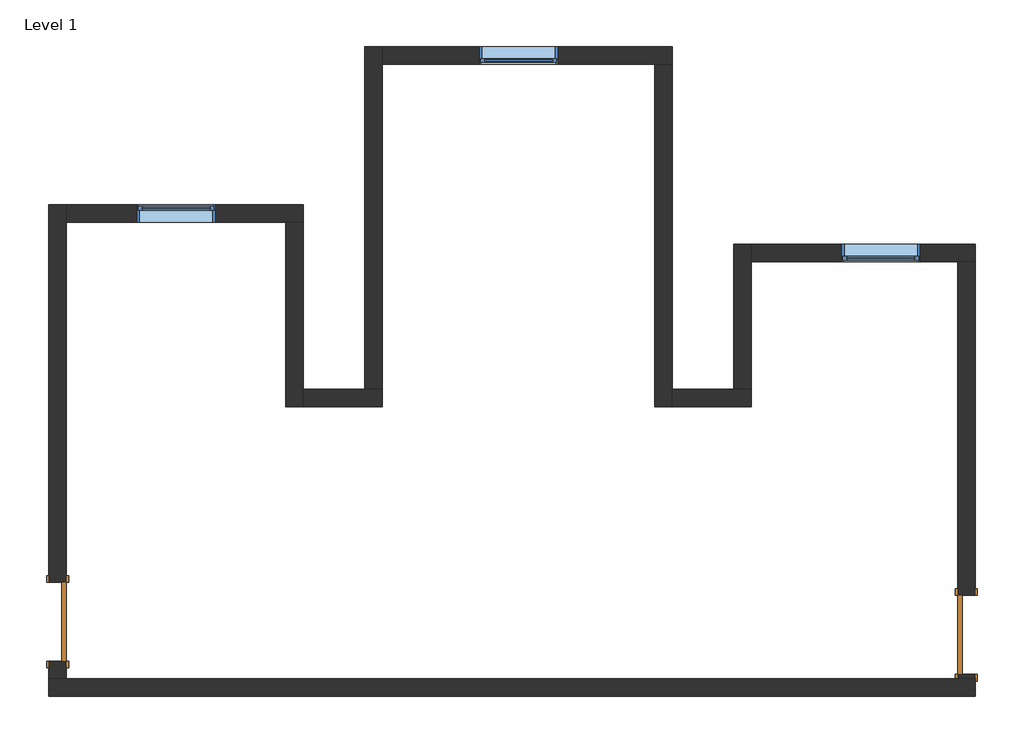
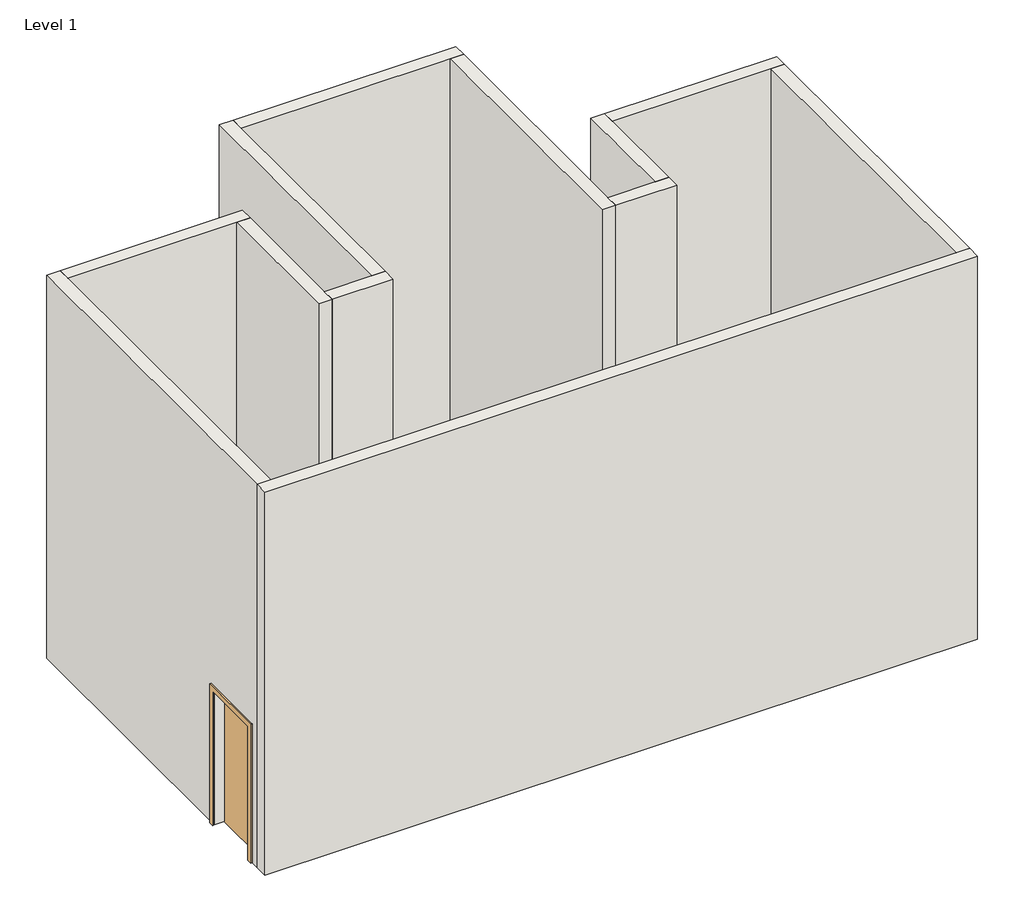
# One storey: 12 walls, 3 windows, 2 doors.
"""IFC4 building model written with IfcOpenShell, lengths in millimetres."""

from ifc_helpers import new_model, si_unit, frame, origin, place, context, project, spatial, polyline, outline, extrude, faceted_brep, transform, mapped, element, save
from components import door_54dd4da4, door_719f80de, window_e2841890

model = new_model("IFC4")

# Units and contexts
model_context = context("Model", 3, world=origin())
ifc_project = project(units=[si_unit("LENGTHUNIT", "METRE", prefix="MILLI")], contexts=[model_context])

# Site, building, storey
site = spatial("IfcSite", under=ifc_project)
building = spatial("IfcBuilding", under=site)
storey = spatial("IfcBuildingStorey", under=building, Name="Level 1", Elevation=0.0)

# Doors
placement = place(None, origin())
door_shape = door_54dd4da4(model_context)
element("IfcDoor", 1, ObjectType="Single-Flush : 36\" x 84\"", at=placement, inside=storey, context=model_context, shape_type="MappedRepresentation", body=[
    mapped(door_shape, transform((-6677.4307585, -3835.4773964, 0.0), x_axis=(0.0, -1.0, 0.0), y_axis=(1.0, 0.0, 0.0), z_axis=(0.0, 0.0, 1.0))),
])
door_2_shape = door_719f80de(model_context)
element("IfcDoor", 2, ObjectType="Single-Flush : 36\" x 84\"", at=placement, inside=storey, context=model_context, shape_type="MappedRepresentation", body=[
    mapped(door_2_shape, transform((3838.1692415, -3987.8773964, 0.0), x_axis=(0.0, -1.0, 0.0), y_axis=(1.0, 0.0, 0.0), z_axis=(0.0, 0.0, 1.0))),
])

# Walls
element("IfcWall", 3, ObjectType="Generic - 8\"", at=placement, inside=storey, context=model_context, shape_type="Brep", body=[
    faceted_brep([(3939.7692415, -4495.8773964, 0.0), (3736.5692415, -4495.8773964, 0.0), (-6575.8307585, -4495.8773964, 0.0), (-6779.0307585, -4495.8773964, 0.0), (-6779.0307585, -4495.8773964, 6096.0), (-6575.8307585, -4495.8773964, 6096.0), (3736.5692415, -4495.8773964, 6096.0), (3939.7692415, -4495.8773964, 6096.0), (3939.7692415, -4699.0773964, 0.0), (3939.7692415, -4699.0773964, 6096.0), (-6779.0307585, -4699.0773964, 6096.0), (-6779.0307585, -4699.0773964, 0.0)], [[[0, 1, 2, 3, 4, 5, 6, 7]], [[8, 9, 10, 11]], [[3, 2, 1, 0, 8, 11]], [[7, 6, 5, 4, 10, 9]], [[4, 3, 11, 10]], [[0, 7, 9, 8]]]),
])
element("IfcWall", 4, ObjectType="Generic - 8\"", at=placement, inside=storey, context=model_context, shape_type="Brep", body=[
    faceted_brep([(-6575.8307585, -4495.8773964, 0.0), (-6575.8307585, -4292.6773964, 0.0), (-6575.8307585, -4292.6773964, 2133.6), (-6575.8307585, -3378.2773964, 2133.6), (-6575.8307585, -3378.2773964, 0.0), (-6575.8307585, 787.3226036, 0.0), (-6575.8307585, 990.5226036, 0.0), (-6575.8307585, 990.5226036, 6096.0), (-6575.8307585, 787.3226036, 6096.0), (-6575.8307585, -4495.8773964, 6096.0), (-6779.0307585, -4292.6773964, 2133.6), (-6779.0307585, -4292.6773964, 0.0), (-6779.0307585, -4495.8773964, 0.0), (-6779.0307585, -4495.8773964, 6096.0), (-6779.0307585, 990.5226036, 6096.0), (-6779.0307585, 990.5226036, 0.0), (-6779.0307585, -3378.2773964, 0.0), (-6779.0307585, -3378.2773964, 2133.6)], [[[0, 1, 2, 3, 4, 5, 6, 7, 8, 9]], [[10, 11, 12, 13, 14, 15, 16, 17]], [[16, 15, 6, 5, 4]], [[12, 11, 1, 0]], [[9, 8, 7, 14, 13]], [[0, 9, 13, 12]], [[7, 6, 15, 14]], [[2, 1, 11, 10]], [[3, 2, 10, 17]], [[4, 3, 17, 16]]]),
])
element("IfcWall", 5, ObjectType="Generic - 8\"", at=placement, inside=storey, context=model_context, shape_type="Brep", body=[
    faceted_brep([(-6575.8307585, 787.3226036, 0.0), (-4035.8307585, 787.3226036, 0.0), (-3832.6307585, 787.3226036, 0.0), (-3832.6307585, 787.3226036, 6096.0), (-4035.8307585, 787.3226036, 6096.0), (-6575.8307585, 787.3226036, 6096.0), (-4848.6307585, 787.3226036, 2133.6), (-4848.6307585, 787.3226036, 914.4), (-5763.0307585, 787.3226036, 914.4), (-5763.0307585, 787.3226036, 2133.6), (-6575.8307585, 990.5226036, 0.0), (-6575.8307585, 990.5226036, 6096.0), (-3832.6307585, 990.5226036, 6096.0), (-3832.6307585, 990.5226036, 0.0), (-4848.6307585, 990.5226036, 2133.6), (-5763.0307585, 990.5226036, 2133.6), (-5763.0307585, 990.5226036, 914.4), (-4848.6307585, 990.5226036, 914.4)], [[[0, 1, 2, 3, 4, 5], [6, 7, 8, 9]], [[10, 11, 12, 13], [14, 15, 16, 17]], [[2, 1, 0, 10, 13]], [[5, 4, 3, 12, 11]], [[0, 5, 11, 10]], [[3, 2, 13, 12]], [[7, 6, 14, 17]], [[8, 7, 17, 16]], [[9, 8, 16, 15]], [[6, 9, 15, 14]]]),
])
element("IfcWall", 6, ObjectType="Generic - 8\"", at=placement, inside=storey, context=model_context, shape_type="Brep", body=[
    faceted_brep([(-4035.8307585, 787.3226036, 0.0), (-4035.8307585, -1346.2773964, 0.0), (-4035.8307585, -1346.2773964, 6096.0), (-4035.8307585, 787.3226036, 6096.0), (-3832.6307585, 787.3226036, 0.0), (-3832.6307585, 787.3226036, 6096.0), (-3832.6307585, -1143.0773964, 6096.0), (-3832.6307585, -1346.2773964, 6096.0), (-3832.6307585, -1346.2773964, 0.0), (-3832.6307585, -1143.0773964, 0.0)], [[[0, 1, 2, 3]], [[4, 5, 6, 7, 8, 9]], [[1, 0, 4, 9, 8]], [[3, 2, 7, 6, 5]], [[0, 3, 5, 4]], [[2, 1, 8, 7]]]),
])
element("IfcWall", 7, ObjectType="Generic - 8\"", at=placement, inside=storey, context=model_context, shape_type="Brep", body=[
    faceted_brep([(-3832.6307585, -1346.2773964, 0.0), (-2918.2307585, -1346.2773964, 0.0), (-2918.2307585, -1346.2773964, 6096.0), (-3832.6307585, -1346.2773964, 6096.0), (-3832.6307585, -1143.0773964, 0.0), (-3832.6307585, -1143.0773964, 6096.0), (-3121.4307585, -1143.0773964, 6096.0), (-2918.2307585, -1143.0773964, 6096.0), (-2918.2307585, -1143.0773964, 0.0), (-3121.4307585, -1143.0773964, 0.0)], [[[0, 1, 2, 3]], [[4, 5, 6, 7, 8, 9]], [[1, 0, 4, 9, 8]], [[3, 2, 7, 6, 5]], [[0, 3, 5, 4]], [[2, 1, 8, 7]]]),
])
element("IfcWall", 8, ObjectType="Generic - 8\"", at=placement, inside=storey, context=model_context, shape_type="Brep", body=[
    faceted_brep([(-2918.2307585, -1143.0773964, 0.0), (-2918.2307585, 2616.1226036, 0.0), (-2918.2307585, 2819.3226036, 0.0), (-2918.2307585, 2819.3226036, 6096.0), (-2918.2307585, 2616.1226036, 6096.0), (-2918.2307585, -1143.0773964, 6096.0), (-3121.4307585, -1143.0773964, 0.0), (-3121.4307585, -1143.0773964, 6096.0), (-3121.4307585, 2819.3226036, 6096.0), (-3121.4307585, 2819.3226036, 0.0)], [[[0, 1, 2, 3, 4, 5]], [[6, 7, 8, 9]], [[2, 1, 0, 6, 9]], [[5, 4, 3, 8, 7]], [[0, 5, 7, 6]], [[3, 2, 9, 8]]]),
])
element("IfcWall", 9, ObjectType="Generic - 8\"", at=placement, inside=storey, context=model_context, shape_type="Brep", body=[
    faceted_brep([(-2918.2307585, 2616.1226036, 0.0), (231.3692415, 2616.1226036, 0.0), (434.5692415, 2616.1226036, 0.0), (434.5692415, 2616.1226036, 6096.0), (231.3692415, 2616.1226036, 6096.0), (-2918.2307585, 2616.1226036, 6096.0), (-1800.6307585, 2616.1226036, 2133.6), (-886.2307585, 2616.1226036, 2133.6), (-886.2307585, 2616.1226036, 914.4), (-1800.6307585, 2616.1226036, 914.4), (-2918.2307585, 2819.3226036, 0.0), (-2918.2307585, 2819.3226036, 6096.0), (434.5692415, 2819.3226036, 6096.0), (434.5692415, 2819.3226036, 0.0), (-1800.6307585, 2819.3226036, 2133.6), (-1800.6307585, 2819.3226036, 914.4), (-886.2307585, 2819.3226036, 914.4), (-886.2307585, 2819.3226036, 2133.6)], [[[0, 1, 2, 3, 4, 5], [6, 7, 8, 9]], [[10, 11, 12, 13], [14, 15, 16, 17]], [[2, 1, 0, 10, 13]], [[5, 4, 3, 12, 11]], [[0, 5, 11, 10]], [[3, 2, 13, 12]], [[15, 14, 6, 9]], [[16, 15, 9, 8]], [[17, 16, 8, 7]], [[14, 17, 7, 6]]]),
])
element("IfcWall", 10, ObjectType="Generic - 8\"", at=placement, inside=storey, context=model_context, shape_type="Brep", body=[
    faceted_brep([(231.3692415, 2616.1226036, 0.0), (231.3692415, -1346.2773964, 0.0), (231.3692415, -1346.2773964, 6096.0), (231.3692415, 2616.1226036, 6096.0), (434.5692415, 2616.1226036, 0.0), (434.5692415, 2616.1226036, 6096.0), (434.5692415, -1143.0773964, 6096.0), (434.5692415, -1346.2773964, 6096.0), (434.5692415, -1346.2773964, 0.0), (434.5692415, -1143.0773964, 0.0)], [[[0, 1, 2, 3]], [[4, 5, 6, 7, 8, 9]], [[1, 0, 4, 9, 8]], [[3, 2, 7, 6, 5]], [[0, 3, 5, 4]], [[2, 1, 8, 7]]]),
])
element("IfcWall", 11, ObjectType="Generic - 8\"", at=placement, inside=storey, context=model_context, shape_type="Brep", body=[
    faceted_brep([(434.5692415, -1346.2773964, 0.0), (1348.9692415, -1346.2773964, 0.0), (1348.9692415, -1346.2773964, 6096.0), (434.5692415, -1346.2773964, 6096.0), (434.5692415, -1143.0773964, 0.0), (434.5692415, -1143.0773964, 6096.0), (1145.7692415, -1143.0773964, 6096.0), (1348.9692415, -1143.0773964, 6096.0), (1348.9692415, -1143.0773964, 0.0), (1145.7692415, -1143.0773964, 0.0)], [[[0, 1, 2, 3]], [[4, 5, 6, 7, 8, 9]], [[1, 0, 4, 9, 8]], [[3, 2, 7, 6, 5]], [[0, 3, 5, 4]], [[2, 1, 8, 7]]]),
])
element("IfcWall", 12, ObjectType="Generic - 8\"", at=placement, inside=storey, context=model_context, shape_type="Brep", body=[
    faceted_brep([(1348.9692415, -1143.0773964, 0.0), (1348.9692415, 330.1226036, 0.0), (1348.9692415, 533.3226036, 0.0), (1348.9692415, 533.3226036, 6096.0), (1348.9692415, 330.1226036, 6096.0), (1348.9692415, -1143.0773964, 6096.0), (1145.7692415, -1143.0773964, 0.0), (1145.7692415, -1143.0773964, 6096.0), (1145.7692415, 533.3226036, 6096.0), (1145.7692415, 533.3226036, 0.0)], [[[0, 1, 2, 3, 4, 5]], [[6, 7, 8, 9]], [[2, 1, 0, 6, 9]], [[5, 4, 3, 8, 7]], [[0, 5, 7, 6]], [[3, 2, 9, 8]]]),
])
element("IfcWall", 13, ObjectType="Generic - 8\"", at=placement, inside=storey, context=model_context, shape_type="Brep", body=[
    faceted_brep([(1348.9692415, 330.1226036, 0.0), (3736.5692415, 330.1226036, 0.0), (3939.7692415, 330.1226036, 0.0), (3939.7692415, 330.1226036, 6096.0), (3736.5692415, 330.1226036, 6096.0), (1348.9692415, 330.1226036, 6096.0), (2390.3692415, 330.1226036, 2133.6), (3304.7692415, 330.1226036, 2133.6), (3304.7692415, 330.1226036, 914.4), (2390.3692415, 330.1226036, 914.4), (1348.9692415, 533.3226036, 0.0), (1348.9692415, 533.3226036, 6096.0), (3939.7692415, 533.3226036, 6096.0), (3939.7692415, 533.3226036, 0.0), (2390.3692415, 533.3226036, 2133.6), (2390.3692415, 533.3226036, 914.4), (3304.7692415, 533.3226036, 914.4), (3304.7692415, 533.3226036, 2133.6)], [[[0, 1, 2, 3, 4, 5], [6, 7, 8, 9]], [[10, 11, 12, 13], [14, 15, 16, 17]], [[2, 1, 0, 10, 13]], [[5, 4, 3, 12, 11]], [[0, 5, 11, 10]], [[3, 2, 13, 12]], [[15, 14, 6, 9]], [[16, 15, 9, 8]], [[17, 16, 8, 7]], [[14, 17, 7, 6]]]),
])
element("IfcWall", 14, ObjectType="Generic - 8\"", at=placement, inside=storey, context=model_context, shape_type="SweptSolid", body=[
    extrude(outline(polyline([(-4445.0773964, 2133.6), (-4445.0773964, 0.0), (-4495.8773964, 0.0), (-4495.8773964, 6096.0), (330.1226036, 6096.0), (330.1226036, 0.0), (-3530.6773964, 0.0), (-3530.6773964, 2133.6), (-4445.0773964, 2133.6)])), frame((3736.5692415, 0.0, 0.0), z_axis=(1.0, 0.0, 0.0), x_axis=(0.0, 1.0, 0.0)), (0.0, 0.0, 1.0), 203.2),
])

# Windows
window_shape = window_e2841890(model_context)
element("IfcWindow", 15, ObjectType="Fixed : 36\" x 48\"", at=placement, inside=storey, context=model_context, shape_type="MappedRepresentation", body=[
    mapped(window_shape, transform((-1381.5307585, 2717.7226036, 0.0), x_axis=(-1.0, 0.0, 0.0), y_axis=(0.0, -1.0, 0.0), z_axis=(0.0, 0.0, 1.0))),
])
element("IfcWindow", 16, ObjectType="Fixed : 36\" x 48\"", at=placement, inside=storey, context=model_context, shape_type="MappedRepresentation", body=[
    mapped(window_shape, transform((-5267.7307585, 888.9226036, 0.0), x_axis=(1.0, 0.0, 0.0), y_axis=(0.0, 1.0, 0.0), z_axis=(0.0, 0.0, 1.0))),
])
element("IfcWindow", 17, ObjectType="Fixed : 36\" x 48\"", at=placement, inside=storey, context=model_context, shape_type="MappedRepresentation", body=[
    mapped(window_shape, transform((2809.4692415, 431.7226036, 0.0), x_axis=(-1.0, 0.0, 0.0), y_axis=(0.0, -1.0, 0.0), z_axis=(0.0, 0.0, 1.0))),
])

save(model, "model.ifc")
